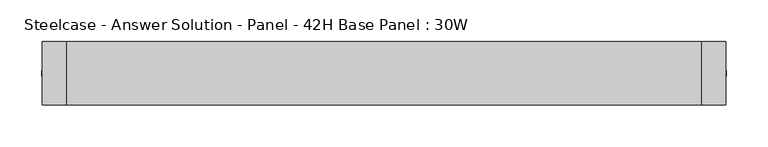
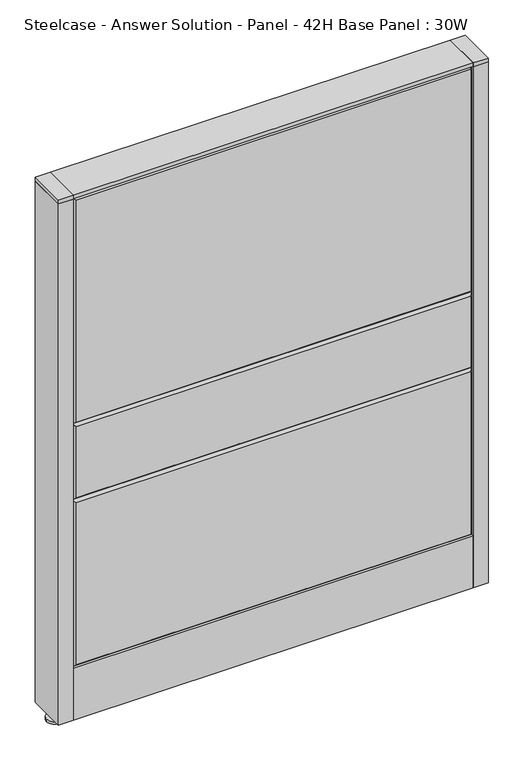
"""IFC4 building model written with IfcOpenShell, lengths in millimetres: furniture geometry, Steelcase - Answer Solution - Panel - 42H Base Panel : 30W."""

from ifc_helpers import new_model, si_unit, point, frame, frame_2d, origin, place, context, project, spatial, polyline, circle_curve, trimmed, segment, composite_curve, outline, extrude, faceted_brep, source, transform, mapped, element, save


def steelcase_answer_solution_panel_42h_base_panel_30w_ccae00c8(model_context):
    return source(origin(), model_context, "Body", "SolidModel", [
        extrude(outline(composite_curve([segment(trimmed(circle_curve(frame_2d((395.224, 0.0039657)), 5.08), [point((400.304, 0.0039657))], [point((390.144, 0.0039657))], False, "CARTESIAN"), True, "CONTINUOUS"), segment(trimmed(circle_curve(frame_2d((395.224, 0.0039657)), 5.08), [point((390.144, 0.0039657))], [point((400.304, 0.0039657))], False, "CARTESIAN"), True, "CONTINUOUS")], self_intersect=False)), frame((0.0, 0.0, 5.0799671), z_axis=(0.0, 0.0, 1.0), x_axis=(1.0, 0.0, 0.0)), (0.0, 0.0, 1.0), 10.414),
        extrude(outline(composite_curve([segment(trimmed(circle_curve(frame_2d((395.224, 0.0039657)), 15.24), [point((410.464, 0.0039657))], [point((379.984, 0.0039657))], False, "CARTESIAN"), True, "CONTINUOUS"), segment(trimmed(circle_curve(frame_2d((395.224, 0.0039657)), 15.24), [point((379.984, 0.0039657))], [point((410.464, 0.0039657))], False, "CARTESIAN"), True, "CONTINUOUS")], self_intersect=False)), frame((0.0, 0.0, -3.29e-05), z_axis=(0.0, 0.0, 1.0), x_axis=(1.0, 0.0, 0.0)), (0.0, 0.0, 1.0), 5.08),
        extrude(outline(polyline([(409.575, 38.1039851), (409.575, -38.0960149), (381.0, -38.0960149), (381.0, 38.1039851), (409.575, 38.1039851)])), frame((0.0, 0.0, 1065.8348), z_axis=(0.0, 0.0, 1.0), x_axis=(1.0, 0.0, 0.0)), (0.0, 0.0, 1.0), 7.3151671),
        extrude(outline(polyline([(409.575, 38.1039851), (409.575, -38.0960149), (381.0, -38.0960149), (381.0, 38.1039851), (409.575, 38.1039851)])), frame((0.0, 0.0, 15.4939671), z_axis=(0.0, 0.0, 1.0), x_axis=(1.0, 0.0, 0.0)), (0.0, 0.0, 1.0), 1050.3408329),
        extrude(outline(composite_curve([segment(trimmed(circle_curve(frame_2d((-395.224, 0.0039657)), 5.08), [point((-400.304, 0.0039657))], [point((-390.144, 0.0039657))], False, "CARTESIAN"), True, "CONTINUOUS"), segment(trimmed(circle_curve(frame_2d((-395.224, 0.0039657)), 5.08), [point((-390.144, 0.0039657))], [point((-400.304, 0.0039657))], False, "CARTESIAN"), True, "CONTINUOUS")], self_intersect=False)), frame((0.0, 0.0, 5.0799671), z_axis=(0.0, 0.0, 1.0), x_axis=(1.0, 0.0, 0.0)), (0.0, 0.0, 1.0), 10.414),
        extrude(outline(composite_curve([segment(trimmed(circle_curve(frame_2d((-395.224, 0.0039657)), 15.24), [point((-410.464, 0.0039657))], [point((-379.984, 0.0039657))], False, "CARTESIAN"), True, "CONTINUOUS"), segment(trimmed(circle_curve(frame_2d((-395.224, 0.0039657)), 15.24), [point((-379.984, 0.0039657))], [point((-410.464, 0.0039657))], False, "CARTESIAN"), True, "CONTINUOUS")], self_intersect=False)), frame((0.0, 0.0, -3.29e-05), z_axis=(0.0, 0.0, 1.0), x_axis=(1.0, 0.0, 0.0)), (0.0, 0.0, 1.0), 5.08),
        extrude(outline(polyline([(-409.575, 38.1039851), (-381.0, 38.1039851), (-381.0, -38.0960149), (-409.575, -38.0960149), (-409.575, 38.1039851)])), frame((0.0, 0.0, 1065.8348), z_axis=(0.0, 0.0, 1.0), x_axis=(1.0, 0.0, 0.0)), (0.0, 0.0, 1.0), 7.3151671),
        extrude(outline(polyline([(-409.575, 38.1039851), (-381.0, 38.1039851), (-381.0, -38.0960149), (-409.575, -38.0960149), (-409.575, 38.1039851)])), frame((0.0, 0.0, 15.4939671), z_axis=(0.0, 0.0, 1.0), x_axis=(1.0, 0.0, 0.0)), (0.0, 0.0, 1.0), 1050.3408329),
        faceted_brep([(-376.174, 38.1635011, 1061.974), (376.174, 38.1635011, 1061.974), (376.174, 38.1635011, 614.426), (-376.174, 38.1635011, 614.426), (-381.0, 33.3375011, 1066.8), (-381.0, 33.3375011, 609.6), (381.0, 33.3375011, 609.6), (381.0, 33.3375011, 1066.8)], [[[0, 1, 2, 3]], [[4, 5, 6, 7]], [[4, 7, 1, 0]], [[7, 6, 2, 1]], [[6, 5, 3, 2]], [[5, 4, 0, 3]]]),
        faceted_brep([(-376.174, 38.1635011, 604.774), (376.174, 38.1635011, 604.774), (376.174, 38.1635011, 462.026), (-376.174, 38.1635011, 462.026), (-381.0, 33.3375011, 609.6), (-381.0, 33.3375011, 457.2), (381.0, 33.3375011, 457.2), (381.0, 33.3375011, 609.6)], [[[0, 1, 2, 3]], [[4, 5, 6, 7]], [[4, 7, 1, 0]], [[7, 6, 2, 1]], [[6, 5, 3, 2]], [[5, 4, 0, 3]]]),
        faceted_brep([(-376.174, 38.1635011, 452.374), (376.174, 38.1635011, 452.374), (376.174, 38.1635011, 125.476), (-376.174, 38.1635011, 125.476), (-381.0, 33.3375011, 457.2), (-381.0, 33.3375011, 120.65), (381.0, 33.3375011, 120.65), (381.0, 33.3375011, 457.2)], [[[0, 1, 2, 3]], [[4, 5, 6, 7]], [[4, 7, 1, 0]], [[7, 6, 2, 1]], [[6, 5, 3, 2]], [[5, 4, 0, 3]]]),
        faceted_brep([(376.174, -38.1635011, 1061.974), (-376.174, -38.1635011, 1061.974), (-376.174, -38.1635011, 614.426), (376.174, -38.1635011, 614.426), (381.0, -33.3375011, 1066.8), (381.0, -33.3375011, 609.6), (-381.0, -33.3375011, 609.6), (-381.0, -33.3375011, 1066.8)], [[[0, 1, 2, 3]], [[4, 5, 6, 7]], [[4, 7, 1, 0]], [[7, 6, 2, 1]], [[6, 5, 3, 2]], [[5, 4, 0, 3]]]),
        faceted_brep([(376.174, -38.1635011, 604.774), (-376.174, -38.1635011, 604.774), (-376.174, -38.1635011, 462.026), (376.174, -38.1635011, 462.026), (381.0, -33.3375011, 609.6), (381.0, -33.3375011, 457.2), (-381.0, -33.3375011, 457.2), (-381.0, -33.3375011, 609.6)], [[[0, 1, 2, 3]], [[4, 5, 6, 7]], [[4, 7, 1, 0]], [[7, 6, 2, 1]], [[6, 5, 3, 2]], [[5, 4, 0, 3]]]),
        faceted_brep([(376.174, -38.1635011, 452.374), (-376.174, -38.1635011, 452.374), (-376.174, -38.1635011, 125.476), (376.174, -38.1635011, 125.476), (381.0, -33.3375011, 457.2), (381.0, -33.3375011, 120.65), (-381.0, -33.3375011, 120.65), (-381.0, -33.3375011, 457.2)], [[[0, 1, 2, 3]], [[4, 5, 6, 7]], [[4, 7, 1, 0]], [[7, 6, 2, 1]], [[6, 5, 3, 2]], [[5, 4, 0, 3]]]),
        extrude(outline(polyline([(381.0, 38.1000194), (381.0, -38.1000194), (-381.0, -38.1000194), (-381.0, 38.1000194), (381.0, 38.1000194)])), frame((0.0, 0.0, 1066.8), z_axis=(0.0, 0.0, 1.0), x_axis=(1.0, 0.0, 0.0)), (0.0, 0.0, 1.0), 6.35),
        extrude(outline(polyline([(25.4000011, 119.8575157), (25.4000011, 120.65), (38.1000194, 120.65), (38.1000194, 15.494), (37.3075215, 15.494), (37.3075215, 119.8575157), (25.4000011, 119.8575157)])), frame((-381.0, 0.0, 0.0), z_axis=(1.0, 0.0, 0.0), x_axis=(0.0, 1.0, 0.0)), (0.0, 0.0, 1.0), 762.0),
        extrude(outline(polyline([(-25.4000011, 119.8575157), (-37.3075215, 119.8575157), (-37.3075215, 15.494), (-38.1000194, 15.494), (-38.1000194, 120.65), (-25.4000011, 120.65), (-25.4000011, 119.8575157)])), frame((-381.0, 0.0, 0.0), z_axis=(1.0, 0.0, 0.0), x_axis=(0.0, 1.0, 0.0)), (0.0, 0.0, 1.0), 762.0),
    ])


if __name__ == "__main__":
    model = new_model("IFC4")
    model_context = context("Model", 3, world=origin())
    ifc_project = project(units=[si_unit("LENGTHUNIT", "METRE", prefix="MILLI")], contexts=[model_context])
    site = spatial("IfcSite", under=ifc_project)
    building = spatial("IfcBuilding", under=site)
    placement = place(None, origin())
    steelcase_answer_solution_panel_42h_base_panel_30w_shape = steelcase_answer_solution_panel_42h_base_panel_30w_ccae00c8(model_context)
    element("IfcFurniture", 1, ObjectType="Steelcase - Answer Solution - Panel - 42H Base Panel : 30W", at=placement, inside=building, context=model_context, shape_type="MappedRepresentation", body=[
        mapped(steelcase_answer_solution_panel_42h_base_panel_30w_shape, transform((0.0, 0.0, 0.0), x_axis=(1.0, 0.0, 0.0), y_axis=(0.0, 1.0, 0.0), z_axis=(0.0, 0.0, 1.0))),
    ])
    save(model, "model.ifc")
